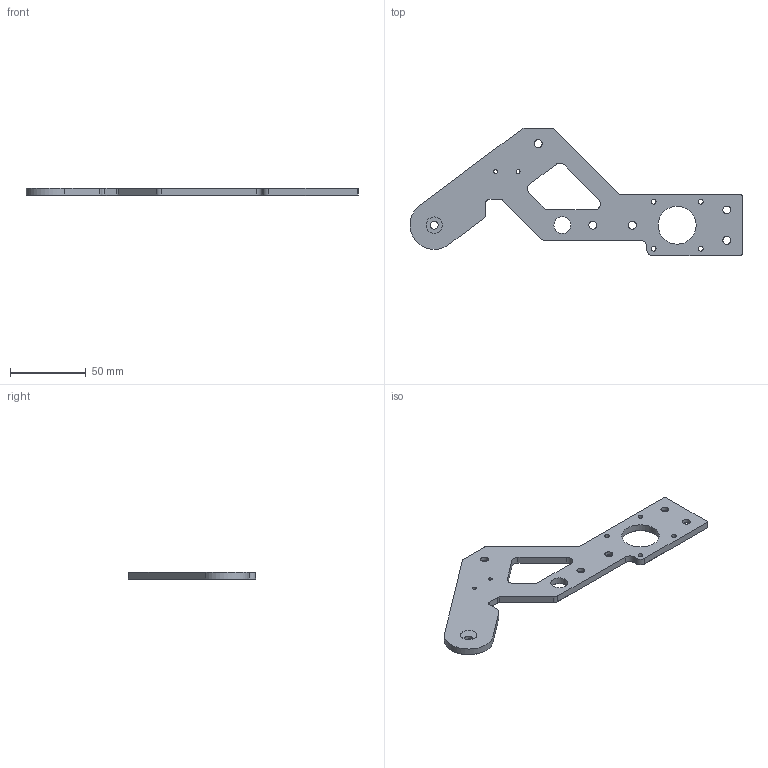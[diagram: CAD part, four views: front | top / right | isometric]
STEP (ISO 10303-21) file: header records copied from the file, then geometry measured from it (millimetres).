
FILE_DESCRIPTION(/* description */ (''),/* implementation_level */ '2;1');
FILE_NAME(/* name */ 'Camera-R-side-plate-final.step',/* time_stamp */ '2025-08-22T17:44:49-04:00',/* author */ (''),/* organization */ (''),/* preprocessor_version */ 'ST-DEVELOPER v20.1',/* originating_system */ 'Autodesk Translation Framework v14.10.0.0',/* authorisation */ '');
FILE_SCHEMA (('AUTOMOTIVE_DESIGN { 1 0 10303 214 3 1 1 }'));
Length unit declared in the file: millimetre
Products named in the file (1): Camera-R-side-plate
Bounding box: 218.55 x 83.66 x 5 mm (x, y, z)
Volume: 38287.3 mm3; surface area: 20049.3 mm2
Topology: 1 solids, 1 shells, 95 faces, 241 edges, 149 vertices
Faces by surface type: plane 37, cylinder 32, cone 26
Full cylindrical faces by diameter (mm): 2.5 x2, 3.2 x4, 5.2 x6, 11 x1, 25 x1
Entity records: 2952 total; most frequent: DIRECTION 530, CARTESIAN_POINT 486, ORIENTED_EDGE 482, EDGE_CURVE 241, AXIS2_PLACEMENT_3D 193, VERTEX_POINT 149, LINE 144, VECTOR 144
